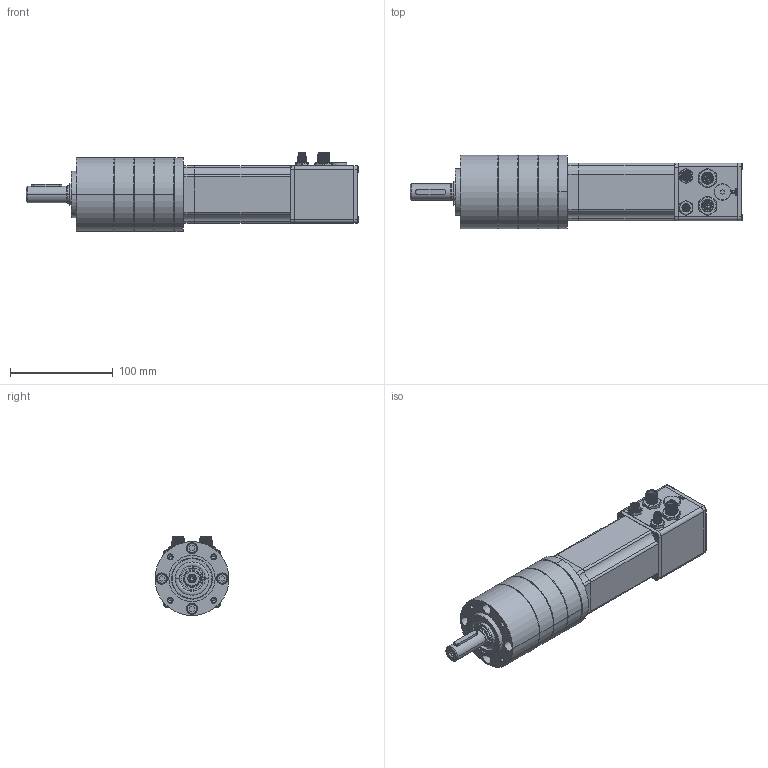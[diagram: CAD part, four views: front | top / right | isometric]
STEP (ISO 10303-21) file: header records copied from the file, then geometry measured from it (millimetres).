
FILE_DESCRIPTION (( 'STEP AP214' ), '1' );
FILE_NAME ('IDX56L_PM72 3 étages.STEP', '2020-02-14T14:13:21', ( '' ), ( '' ), 'SwSTEP 2.0', 'SolidWorks 2018', '' );
FILE_SCHEMA (( 'AUTOMOTIVE_DESIGN' ));
Length unit declared in the file: millimetre
Products named in the file (5): B7B8186C2EA7; Vis_CHC_2__Vis CHC M5 x 8; PM72-3etages; IDX56L_PM72 3 étages; 6576738_01_Adapt IDX56L_PM72
Assembly tree (7 placements, depth 2):
  IDX56L_PM72 3 étages
    B7B8186C2EA7
    6576738_01_Adapt IDX56L_PM72
    Vis_CHC_2__Vis CHC M5 x 8  x4
    PM72-3etages
Bounding box: 323.4 x 72 x 77 mm (x, y, z)
Volume: 550961.6 mm3; surface area: 223941.2 mm2
Topology: 55 solids, 93 shells, 3054 faces, 7527 edges, 4744 vertices
Faces by surface type: cylinder 1091, plane 976, cone 801, bspline 110, torus 76
Entity records: 126088 total; most frequent: CARTESIAN_POINT 19479, DIRECTION 16463, ORIENTED_EDGE 14750, EDGE_CURVE 7393, AXIS2_PLACEMENT_3D 6311, VERTEX_POINT 4672, VECTOR 3841, LINE 3841
